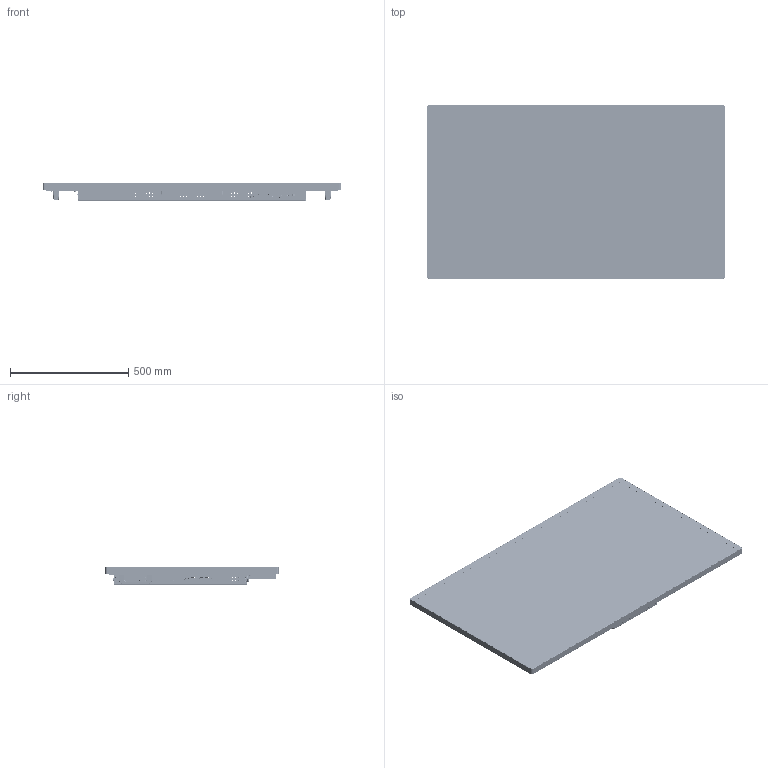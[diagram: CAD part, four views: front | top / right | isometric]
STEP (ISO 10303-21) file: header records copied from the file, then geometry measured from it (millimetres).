
FILE_DESCRIPTION((''),'2;1');
FILE_NAME('URP552-ERO-T-20250208_ASM_1_ASM','2025-07-09T16:42:29',('曾'),('制作'),'CREO PARAMETRIC BY PTC INC, 2018500','CREO PARAMETRIC BY PTC INC, 2018500','');
FILE_SCHEMA(('CONFIG_CONTROL_DESIGN','GEOMETRIC_VALIDATION_PROPERTIES_MIM'));
Products named in the file (60): 55-ITO-3MM_8_7_2_1; 55-CG-TP-OC_ASM_8_ASM_7_ASM_2_A_ASM; 55-INNER-FRAME-T_9_7_2_1; 55-INNER-FRAME-L_9_7_2_1; 55-INNER-FRAME-R_9_7_2_1; 55-INNER-FRAME_ASM_8_ASM_7_ASM__ASM; 55-OUTSIDE-FRAME-T_9_7_2_1; 55-OUTSIDE-FRAME-B_9_7_2_1; 55-OUTSIDE-FRAME-L_9_7_2_1; 55-OUTSIDE-FRAME-R_9_7_2_1; 55-OUTSIDE-FRAME_ASM_8_ASM_7_AS_ASM; 550_HANGING-COLUMU-25_ASM_5_A_1; SCREW-BOLT_M6-30-5_3_9_7_2_1; 550_HANGING-COLUMU-30_ASM_3_A_1_ASM; 550_METAL-PLATE_ASM_4_ASM_8_A_1_ASM; AC-OUT_8_7_2_1; TS27_2_1_1_8_7_2_1; AN-IN_AC-1_2_8_7_2_1; AC-IN_ROCKER-SWITCH_3_8_7_2_1; 550_AC-IN_LB_ASM_5_ASM_8_ASM__1_ASM; LB-HEEL_9_7_2_1; LB-HEEL-LEFT_9_7_2_1; 550_BACK-COVER-C2_13_9_7_2_1; 55DA2-V_S-PCB-COVER_3_9_7_2_1; BACKCOVER-RIGHT_9_7_2_1; 550_BACK-COVER_ASM_17_ASM_8_A_1_ASM; 55-BACKLIGHT_ASM_8_ASM_7_ASM_2__ASM; SIDECOVER-LEFT_9_7_2_1; 55JQT-BOTT_9_7_2_2; HDMI-1_2_1_1_24_4_1_13_3_20_8_1; USB_TYPEC_2_1_1_24_4_1_13_3_2_3; DP_24_4_1_13_3_20_8_7_2_1; USB_B-3_3_1_2_11_24_3_1_13_3__3; IR_35_11_1-8437640_2_1252_24__4; S232EDU_MS8386_17-1015_1_3_1__4; RJ45ZP5_PRT_1_1_1_1_1_1252333_4; SPDIF_PLT_24_4_1_13_3_19_8_7_2_; PRT0009_3_19_8_7_2_1; USB-LS-3-0_24_2_1_1_2_50_1_8__1; RESET-KEY_8_7_2_1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
Assembly tree (67 placements, depth 7):
  URP552-ERO-T-20250208_ASM_1_ASM
    00-URP-KINGMAN-55_ASM_ASM_ASM_3_ASM
      55-CG-TP-OC_ASM_8_ASM_7_ASM_2_A_ASM
        55-ITO-3MM_8_7_2_1
      55-INNER-FRAME_ASM_8_ASM_7_ASM__ASM
        55-INNER-FRAME-T_9_7_2_1
        55-INNER-FRAME-L_9_7_2_1
        55-INNER-FRAME-R_9_7_2_1
      55-OUTSIDE-FRAME_ASM_8_ASM_7_AS_ASM
        55-OUTSIDE-FRAME-T_9_7_2_1
        55-OUTSIDE-FRAME-B_9_7_2_1
        55-OUTSIDE-FRAME-L_9_7_2_1
        55-OUTSIDE-FRAME-R_9_7_2_1
      55-BACKLIGHT_ASM_8_ASM_7_ASM_2__ASM
        550_METAL-PLATE_ASM_4_ASM_8_A_1_ASM
          550_HANGING-COLUMU-25_ASM_5_A_1
          550_HANGING-COLUMU-30_ASM_3_A_1_ASM
            SCREW-BOLT_M6-30-5_3_9_7_2_1  x4
        550_AC-IN_LB_ASM_5_ASM_8_ASM__1_ASM
          AC-OUT_8_7_2_1
          TS27_2_1_1_8_7_2_1
          AN-IN_AC-1_2_8_7_2_1
          AC-IN_ROCKER-SWITCH_3_8_7_2_1
        LB-HEEL_9_7_2_1
        LB-HEEL-LEFT_9_7_2_1
        550_BACK-COVER_ASM_17_ASM_8_A_1_ASM
          550_BACK-COVER-C2_13_9_7_2_1
          55DA2-V_S-PCB-COVER_3_9_7_2_1
          BACKCOVER-RIGHT_9_7_2_1
      SIDECOVER-LEFT_9_7_2_1
      55JQT-BOTT_9_7_2_2
      2738-MAIN-PCBA_ASM_8_ASM_ASM__2_ASM
        MAIN-PCBA_ASM_8_ASM_21_ASM_8__1_ASM
          HDMI-1_2_1_1_24_4_1_13_3_20_8_1  x2
          USB_TYPEC_2_1_1_24_4_1_13_3_2_3
          DP_24_4_1_13_3_20_8_7_2_1  x3
          USB_B-3_3_1_2_11_24_3_1_13_3__3
          IR_35_11_1-8437640_2_1252_24__4
          S232EDU_MS8386_17-1015_1_3_1__4
          RJ45ZP5_PRT_1_1_1_1_1_1252333_4
          SPDIF_PLT_24_4_1_13_3_19_8_7_2_
          PRT0009_3_19_8_7_2_1
          USB-LS-3-0_24_2_1_1_2_50_1_8__1
          RESET-KEY_8_7_2_1
      SIDECOVER-TOP_10_7_2_1
      SIDECOVE-RIGHT_9_7_2_1
      7-WXQ-ANJIAN_1__ASM_8_ASM_7_A_1_ASM
        ASM0002_ASM_12_ASM_8_ASM_7_AS_1_ASM
          7J_ASM_3_ASM_8_ASM_7_ASM_2_ASM__ASM
            ASM0003_ASM_1_ASM_1_ASM_8_ASM_1_ASM
              MZ_1_1_8_7_2_1
          0002_2_8_7_2_1
      SPEAKERS_ASM_ASM_ASM_ASM_5_AS_1_ASM
        SPEAKERS_ASM_ASM_ASM_5_ASM_5__1_ASM
          SPEAKERS_ASM_ASM_9_ASM_5_ASM__1_ASM
            SPEAKERS_ASM_19_ASM_9_ASM_5_A_1_ASM
          1424_ASM_5_ASM_5_ASM_7_ASM_2_AS_ASM  x2
            ADMI16FC0D8E159G_ASM_5_ASM_5__1_ASM
              ADMI16FC0D8E159G_1_5_5_7_2_1
    BS-2_1_  x2
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Bounding box: 1264 x 734.8 x 73.9 mm (x, y, z)
Volume: 5461009.2 mm3; surface area: 4952371.9 mm2
Topology: 45 solids, 60 shells, 13066 faces, 38312 edges, 25473 vertices
Faces by surface type: cylinder 7990, plane 4401, cone 358, torus 112, bspline 96, extrusion 81, sphere 28
Full cylindrical faces by diameter (mm): 1 x1
Entity records: 501045 total; most frequent: CARTESIAN_POINT 72237, DIRECTION 71542, ORIENTED_EDGE 65644, PRESENTATION_STYLE_ASSIGNMENT 32881, STYLED_ITEM 32881, CURVE_STYLE 32837, EDGE_CURVE 32837, AXIS2_PLACEMENT_3D 27806
